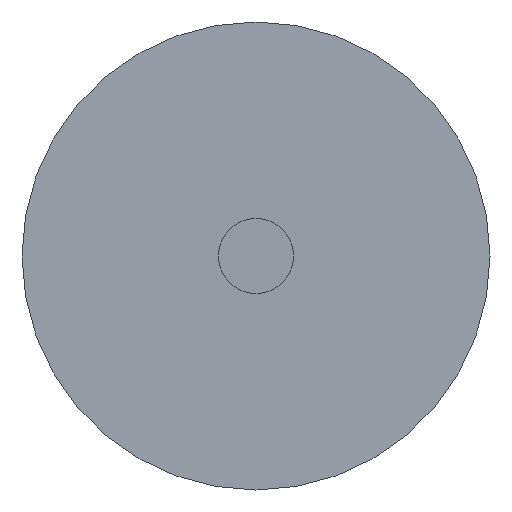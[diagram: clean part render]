
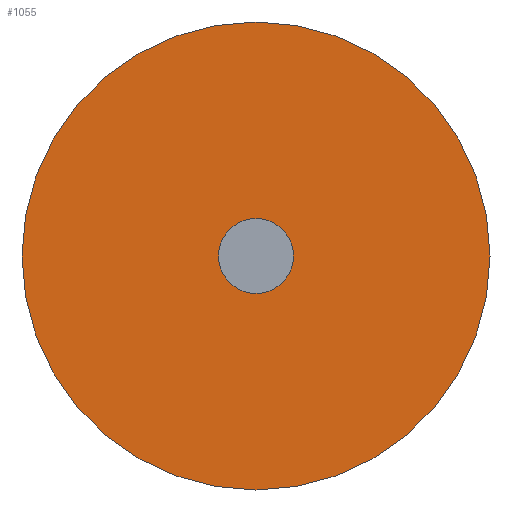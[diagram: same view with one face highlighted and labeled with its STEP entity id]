
A CAD part, left-side view. The second image highlights one B-rep face of the part: STEP entity #1055.
In plain terms, the highlighted planar face has unit normal (-1, 0, 0).
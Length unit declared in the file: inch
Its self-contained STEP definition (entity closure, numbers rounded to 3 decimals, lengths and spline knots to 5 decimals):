
#9 = VERTEX_POINT ( 'NONE', #933 ) ;
#14 = DIRECTION ( 'NONE',  ( -1., 0., 0. ) ) ;
#21 = CIRCLE ( 'NONE', #1322, 0.12477 ) ;
#27 = DIRECTION ( 'NONE',  ( -1., 0., 0. ) ) ;
#34 = DIRECTION ( 'NONE',  ( -1., 0., 0. ) ) ;
#39 = CARTESIAN_POINT ( 'NONE',  ( 0., 0., 0.12477 ) ) ;
#47 = EDGE_CURVE ( 'NONE', #9, #666, #807, .T. ) ;
#135 = VERTEX_POINT ( 'NONE', #39 ) ;
#226 = AXIS2_PLACEMENT_3D ( 'NONE', #938, #14, #438 ) ;
#267 = DIRECTION ( 'NONE',  ( -1., 0., 0. ) ) ;
#300 = CARTESIAN_POINT ( 'NONE',  ( 0., 0., 0. ) ) ;
#322 = AXIS2_PLACEMENT_3D ( 'NONE', #531, #27, #451 ) ;
#361 = EDGE_CURVE ( 'NONE', #1167, #135, #1174, .T. ) ;
#401 = FACE_BOUND ( 'NONE', #554, .T. ) ;
#405 = AXIS2_PLACEMENT_3D ( 'NONE', #957, #34, #456 ) ;
#420 = EDGE_LOOP ( 'NONE', ( #803, #693 ) ) ;
#438 = DIRECTION ( 'NONE',  ( 0., 0., 1. ) ) ;
#451 = DIRECTION ( 'NONE',  ( 0., 0., 1. ) ) ;
#456 = DIRECTION ( 'NONE',  ( 0., 0., 1. ) ) ;
#531 = CARTESIAN_POINT ( 'NONE',  ( 0., 0., 0. ) ) ;
#554 = EDGE_LOOP ( 'NONE', ( #1227, #792 ) ) ;
#629 = AXIS2_PLACEMENT_3D ( 'NONE', #300, #700, #1107 ) ;
#665 = DIRECTION ( 'NONE',  ( 0., 0., 1. ) ) ;
#666 = VERTEX_POINT ( 'NONE', #1119 ) ;
#693 = ORIENTED_EDGE ( 'NONE', *, *, #361, .T. ) ;
#700 = DIRECTION ( 'NONE',  ( 1., 0., 0. ) ) ;
#792 = ORIENTED_EDGE ( 'NONE', *, *, #1335, .F. ) ;
#794 = FACE_OUTER_BOUND ( 'NONE', #420, .T. ) ;
#803 = ORIENTED_EDGE ( 'NONE', *, *, #891, .T. ) ;
#807 = CIRCLE ( 'NONE', #226, 0.02 ) ;
#860 = CARTESIAN_POINT ( 'NONE',  ( 0., 0., 0. ) ) ;
#891 = EDGE_CURVE ( 'NONE', #135, #1167, #21, .T. ) ;
#933 = CARTESIAN_POINT ( 'NONE',  ( 0., 0., 0.02 ) ) ;
#938 = CARTESIAN_POINT ( 'NONE',  ( 0., 0., 0. ) ) ;
#957 = CARTESIAN_POINT ( 'NONE',  ( 0., 0., 0. ) ) ;
#1021 = CARTESIAN_POINT ( 'NONE',  ( 0., 0., -0.12477 ) ) ;
#1055 = ADVANCED_FACE ( 'NONE', ( #401, #794 ), #1216, .F. ) ;
#1107 = DIRECTION ( 'NONE',  ( 0., 0., -1. ) ) ;
#1119 = CARTESIAN_POINT ( 'NONE',  ( 0., 0., -0.02 ) ) ;
#1167 = VERTEX_POINT ( 'NONE', #1021 ) ;
#1174 = CIRCLE ( 'NONE', #322, 0.12477 ) ;
#1216 = PLANE ( 'NONE',  #629 ) ;
#1219 = CIRCLE ( 'NONE', #405, 0.02 ) ;
#1227 = ORIENTED_EDGE ( 'NONE', *, *, #47, .F. ) ;
#1322 = AXIS2_PLACEMENT_3D ( 'NONE', #860, #267, #665 ) ;
#1335 = EDGE_CURVE ( 'NONE', #666, #9, #1219, .T. ) ;
